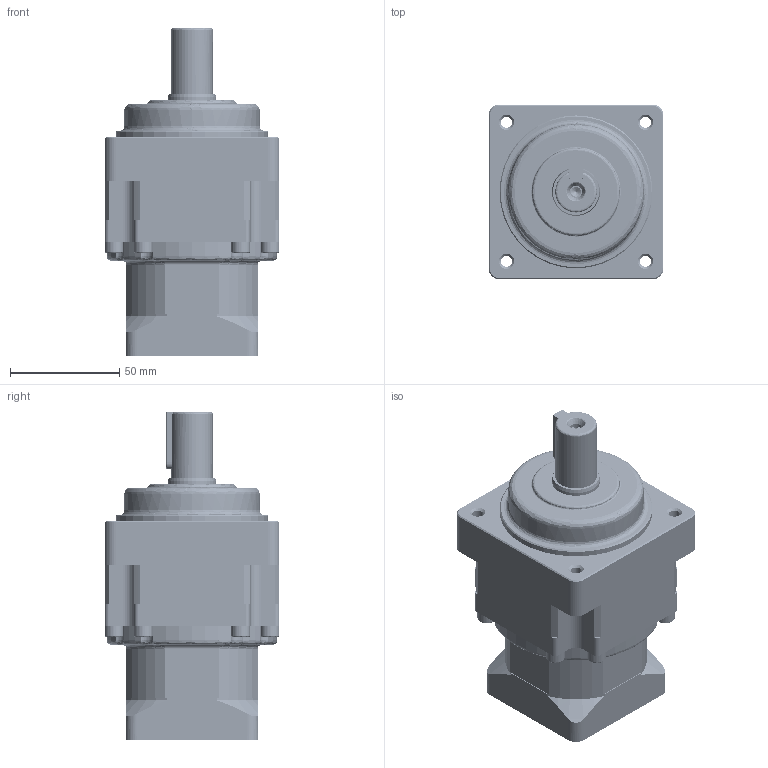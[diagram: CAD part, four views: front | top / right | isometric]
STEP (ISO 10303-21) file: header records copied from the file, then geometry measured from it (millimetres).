
FILE_DESCRIPTION (( 'STEP AP214' ), '1' );
FILE_NAME ('VRSF80-L2-S2-P1 14-50-70-M5.STEP', '2022-02-12T07:26:54', ( 'Admin' ), ( '' ), 'SwSTEP 2.0', 'SolidWorks 2018', '' );
FILE_SCHEMA (( 'AUTOMOTIVE_DESIGN' ));
Length unit declared in the file: millimetre
Products named in the file (14): VRSF80-15-609-14; VRSF80-604_2; M5-25; VRSF80-626-002; VRSF80-L2-S2-P1 14-50-70-M5; C6X6X26; VRSF80--616_2; VRSF80-605-001; VRSF80--616; VRSF80-604; M5-20; VRSF80-626-002_2; M5-16; VRSF80-15-609-14_2
Assembly tree (23 placements, depth 2):
  VRSF80-L2-S2-P1 14-50-70-M5
    VRSF80-604_2
    VRSF80-604
    VRSF80--616_2
    VRSF80--616
    VRSF80-605-001
    VRSF80-626-002_2
    VRSF80-626-002
    VRSF80-15-609-14_2
    VRSF80-15-609-14
    M5-16
    M5-20  x4
    M5-25  x8
    C6X6X26
Bounding box: 80 x 80 x 150 mm (x, y, z)
Volume: 515397.3 mm3; surface area: 88558.2 mm2
Topology: 19 solids, 29 shells, 4062 faces, 8985 edges, 4974 vertices
Faces by surface type: cone 2377, cylinder 1339, plane 289, bspline 57
Entity records: 34815 total; most frequent: CARTESIAN_POINT 8161, DIRECTION 6013, ORIENTED_EDGE 5152, EDGE_CURVE 2597, AXIS2_PLACEMENT_3D 2414, VERTEX_POINT 1512, CIRCLE 1292, EDGE_LOOP 1201
